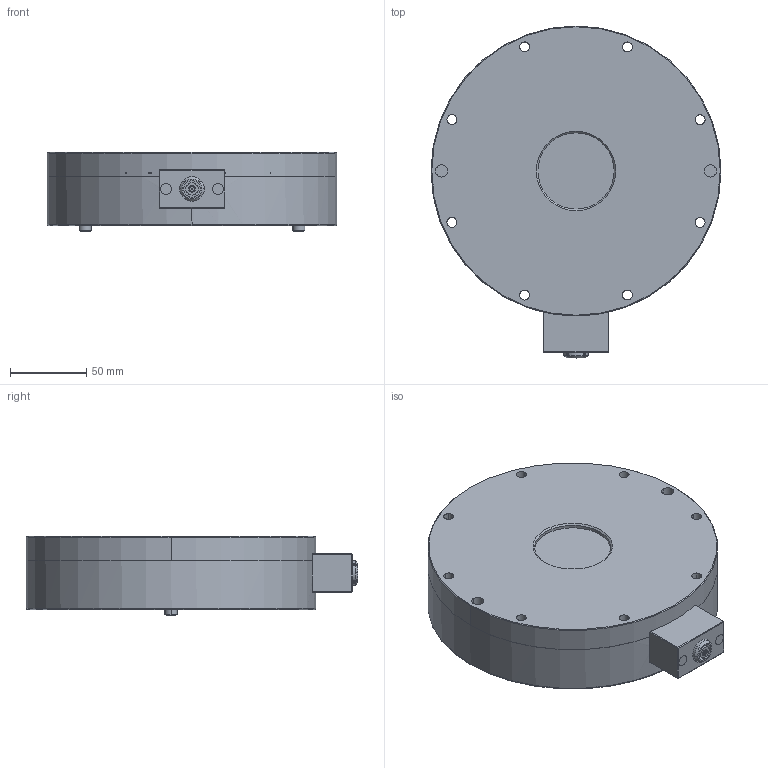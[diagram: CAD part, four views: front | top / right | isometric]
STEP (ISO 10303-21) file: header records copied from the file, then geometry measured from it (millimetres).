
FILE_DESCRIPTION((''),'2;1');
FILE_NAME('3635D2-00_ASM_39_ASM','2020-07-02T13:20:38',('lenovo'),(''),'CREO PARAMETRIC BY PTC INC, 2016390','CREO PARAMETRIC BY PTC INC, 2016390','');
FILE_SCHEMA(('CONFIG_CONTROL_DESIGN'));
Length unit declared in the file: millimetre
Products named in the file (18): 3635D2-15_400; 3635D2-10_ASM_88_ASM; 3635D2-24_185; 5000524_30; 3635D2-25_ASM_36_ASM; 3635D2-31_69; 5000287_64; LEMO_ECG_1B_308_CLN_5; 3635C2-CIRCUIT_18; 3635D2-26_6; 5000393_64; 3635D2-O-RING_9; 3635D2-01_ASM_189_ASM; 3635D2-21_103; 3635D2-22_ASM_6_ASM; 3635D2-FILLER4_2; M8X12; 3635D2-00_ASM_39_ASM
Assembly tree (22 placements, depth 4):
  3635D2-00_ASM_39_ASM
    3635D2-01_ASM_189_ASM
      3635D2-10_ASM_88_ASM
        3635D2-15_400
      3635D2-25_ASM_36_ASM
        3635D2-24_185
        5000524_30  x2
      3635D2-31_69
      5000287_64  x2
      LEMO_ECG_1B_308_CLN_5
      3635C2-CIRCUIT_18
      3635D2-26_6
      5000393_64  x2
      3635D2-O-RING_9
    3635D2-22_ASM_6_ASM
      3635D2-21_103
    3635D2-FILLER4_2  x2
    M8X12  x2
Bounding box: 190 x 217.5 x 52 mm (x, y, z)
Volume: 1370780.1 mm3; surface area: 242799.6 mm2
Topology: 18 solids, 50 shells, 555 faces, 1345 edges, 892 vertices
Faces by surface type: cylinder 294, plane 185, cone 70, torus 6
Entity records: 15985 total; most frequent: CARTESIAN_POINT 3401, DIRECTION 2831, ORIENTED_EDGE 2254, EDGE_CURVE 1187, AXIS2_PLACEMENT_3D 1175, VERTEX_POINT 808, EDGE_LOOP 641, CIRCLE 616
